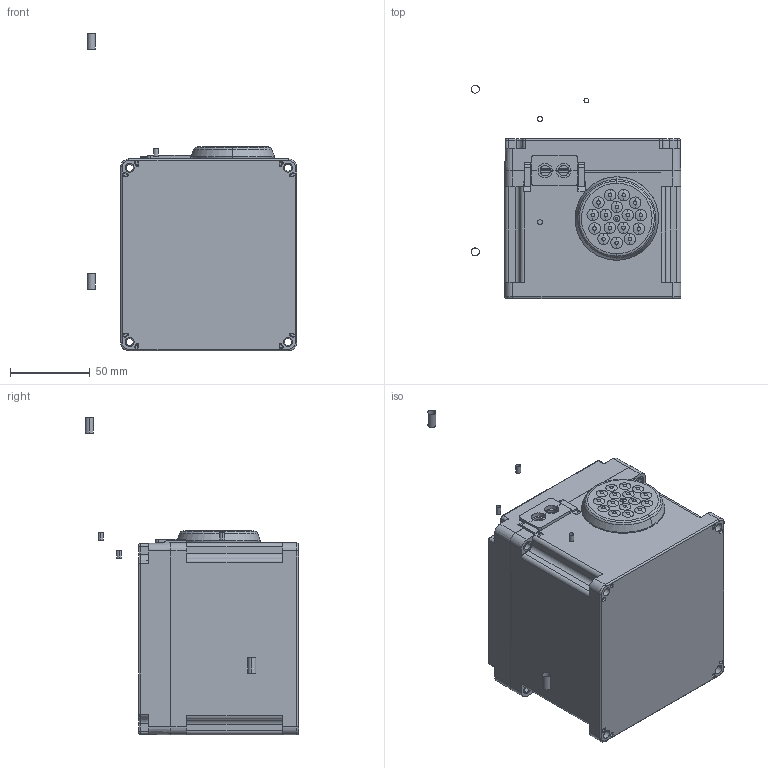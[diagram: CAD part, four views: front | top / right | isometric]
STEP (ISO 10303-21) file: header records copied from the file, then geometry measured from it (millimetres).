
FILE_DESCRIPTION((''),'2;1');
FILE_NAME('YH_16_ASM','2026-05-14T17:54:09',('Administrator'),(''),'CREO PARAMETRIC BY PTC INC, 2022073','CREO PARAMETRIC BY PTC INC, 2022073','');
FILE_SCHEMA(('CONFIG_CONTROL_DESIGN'));
Length unit declared in the file: millimetre
Products named in the file (6): BOX_1; MF; MC_C_1; 40-17; MFQ_2; YH_16_ASM
Assembly tree (6 placements, depth 2):
  YH_16_ASM
    BOX_1
    MF  x2
    MC_C_1
    40-17
    MFQ_2
Bounding box: 131 x 133.25 x 198.7 mm (x, y, z)
Volume: 221143.8 mm3; surface area: 175767.9 mm2
Topology: 13 solids, 23 shells, 1196 faces, 3149 edges, 2048 vertices
Faces by surface type: plane 614, cone 250, cylinder 242, torus 48, bspline 30, sphere 12
Entity records: 36713 total; most frequent: CARTESIAN_POINT 7886, DIRECTION 6002, ORIENTED_EDGE 5982, EDGE_CURVE 2999, AXIS2_PLACEMENT_3D 2044, VERTEX_POINT 1948, VECTOR 1914, LINE 1914
